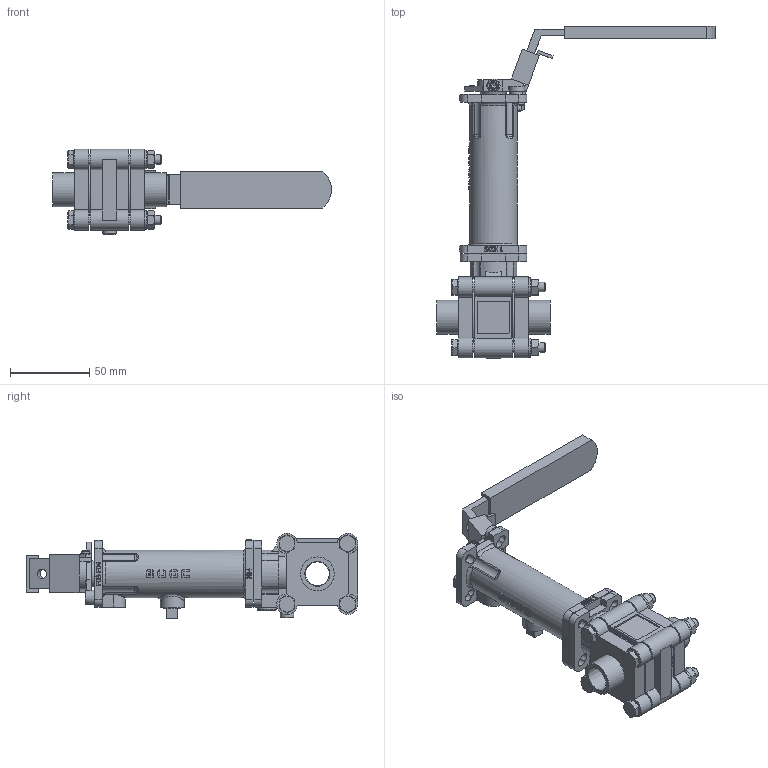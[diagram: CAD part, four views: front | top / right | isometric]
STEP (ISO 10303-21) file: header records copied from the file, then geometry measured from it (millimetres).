
FILE_DESCRIPTION(/* description */ ('Eriks item no: 14229941'),/* implementation_level */ '2;1');
FILE_NAME(/* name */ 'L:\DATA\ENG\Inventor\Econ 3D modellen\kogelkranen\7642 +7412\7642-DN15-FB + 7412-size1.stp',/* time_stamp */ '2024-01-22T16:04:13+01:00',/* author */ ('roger.thijssen'),/* organization */ (''),/* preprocessor_version */ 'ST-DEVELOPER v18',/* originating_system */ 'Autodesk Inventor 2020',/* authorisation */ '');
FILE_SCHEMA (('CONFIG_CONTROL_DESIGN'));
Length unit declared in the file: millimetre
Products named in the file (1): Ball valve + stem ext., 7642-DN15-FB + 7412-size1
Bounding box: 175.8 x 209.28 x 53.93 mm (x, y, z)
Volume: 213155.9 mm3; surface area: 67332.4 mm2
Topology: 3 solids, 3 shells, 1171 faces, 3138 edges, 2053 vertices
Faces by surface type: plane 696, cylinder 205, bspline 187, cone 72, torus 11
Full cylindrical faces by diameter (mm): 5 x3, 5.5 x5, 6 x9, 7 x12, 8.5 x1, 8.6 x1, 8.9 x4, 9 x1, 11.112 x1, 11.2 x2, 12 x2, 15 x2, 16 x1, 21.3 x2, 22.5 x2, 23 x1, 25 x1, 29 x1, 30 x1, 39.5 x2
Entity records: 42534 total; most frequent: CARTESIAN_POINT 13033, ORIENTED_EDGE 6274, DIRECTION 5271, EDGE_CURVE 3137, VERTEX_POINT 2053, LINE 1859, VECTOR 1859, AXIS2_PLACEMENT_3D 1706
